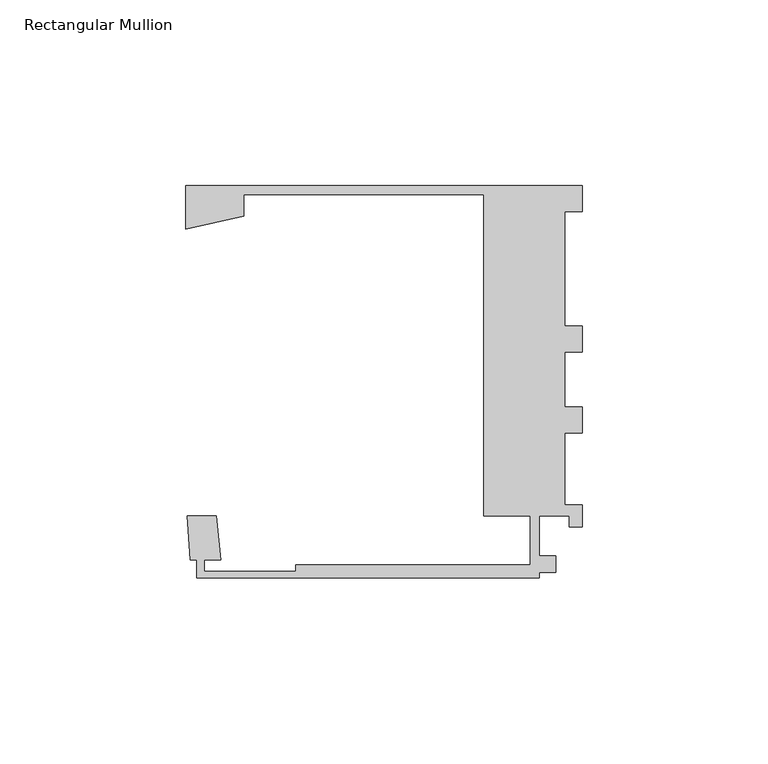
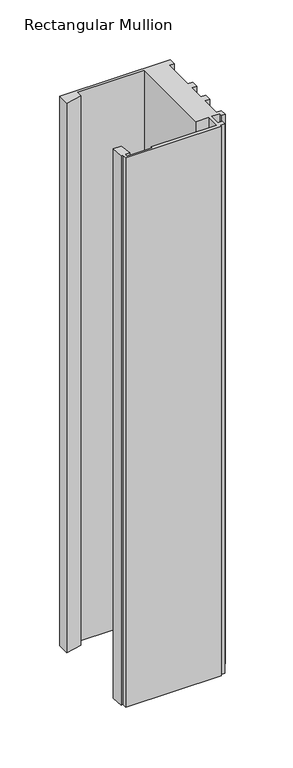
"""IFC4 building model written with IfcOpenShell, lengths in millimetres: member geometry, Rectangular Mullion : Danpal_Airpt_End-Mullion_B1."""

from ifc_helpers import new_model, si_unit, frame, origin, place, context, project, spatial, polyline, outline, extrude, source, transform, mapped, element, save


def rectangular_mullion_355b0079(model_context):
    return source(origin(), model_context, "Body", "SweptSolid", [
        extrude(outline(polyline([(-11.6055875, -92.6094337), (-103.8999976, -92.6094337), (-103.8999976, -87.7698451), (-105.6776694, -87.7698451), (-106.4274982, -75.8596534), (-98.5693208, -75.8596534), (-97.4384397, -87.7698451), (-101.8999976, -87.7698451), (-101.8999976, -90.8094336), (-77.1531178, -90.8094336), (-77.1531178, -89.1094336), (-14.1055875, -89.1094336), (-14.1055875, -75.8596534), (-26.6209612, -75.8596534), (-26.6209612, 10.6837558), (-91.2900275, 10.6837558), (-91.2900275, 4.9090081), (-106.8892292, 1.4378016), (-106.8892292, 13.1837558), (0.0, 13.1837558), (0.0, 6.1837558), (-4.8, 6.1837558), (-4.8, -24.6595054), (0.0, -24.6595054), (0.0, -31.6595227), (-4.8, -31.6595227), (-4.8, -46.4688518), (0.0, -46.4688518), (0.0, -53.4688518), (-4.8, -53.4688518), (-4.8, -72.9077707), (0.0, -72.9077707), (0.0, -78.8594337), (-3.5072447, -78.8594337), (-3.5072447, -75.8594337), (-11.6055875, -75.8594337), (-11.6055875, -86.6049249), (-7.1518595, -86.6049249), (-7.1518595, -91.1094337), (-11.6055875, -91.1094337), (-11.6055875, -92.6094337)])), frame((0.0, 0.0, -562.159327), z_axis=(0.0, 0.0, 1.0), x_axis=(1.0, 0.0, 0.0)), (0.0, 0.0, 1.0), 562.159327),
    ])


if __name__ == "__main__":
    model = new_model("IFC4")
    model_context = context("Model", 3, world=origin())
    ifc_project = project(units=[si_unit("LENGTHUNIT", "METRE", prefix="MILLI")], contexts=[model_context])
    site = spatial("IfcSite", under=ifc_project)
    building = spatial("IfcBuilding", under=site)
    placement = place(None, origin())
    rectangular_mullion_shape = rectangular_mullion_355b0079(model_context)
    element("IfcMember", 1, ObjectType="Rectangular Mullion : Danpal_Airpt_End-Mullion_B1", at=placement, inside=building, context=model_context, shape_type="MappedRepresentation", body=[
        mapped(rectangular_mullion_shape, transform((0.0, 0.0, 0.0), x_axis=(1.0, 0.0, 0.0), y_axis=(0.0, 1.0, 0.0), z_axis=(0.0, 0.0, 1.0))),
    ])
    save(model, "model.ifc")
